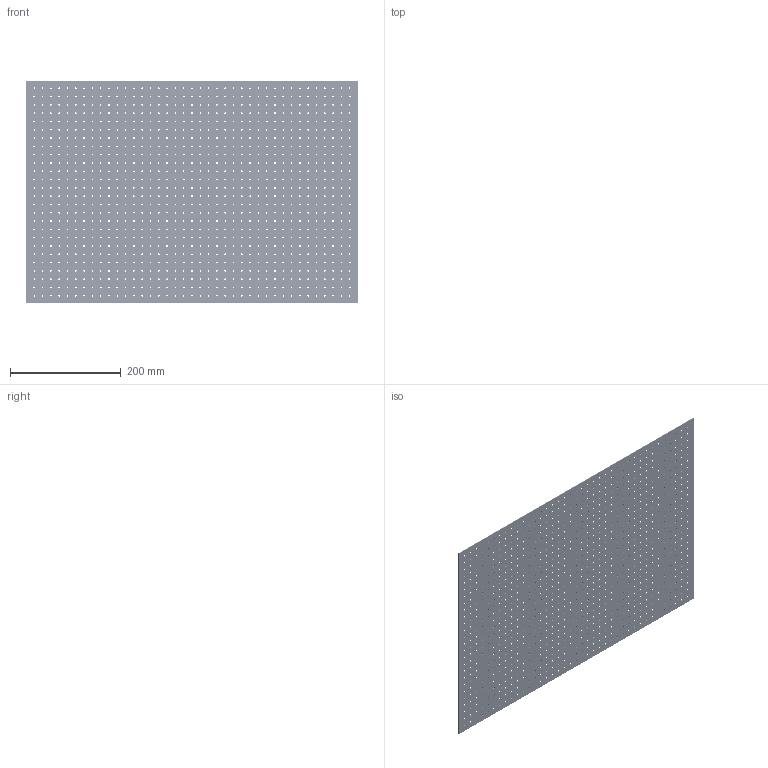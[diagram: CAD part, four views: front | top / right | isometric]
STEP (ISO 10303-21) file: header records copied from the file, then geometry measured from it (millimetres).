
FILE_DESCRIPTION (( 'STEP AP203' ), '1' );
FILE_NAME ('VT00443.STEP', '2016-07-05T05:37:19', ( '' ), ( '' ), 'SwSTEP 2.0', 'SolidWorks 2016', '' );
FILE_SCHEMA (( 'CONFIG_CONTROL_DESIGN' ));
Products named in the file (1): VT00443
Bounding box: 600 x 1 x 400 mm (x, y, z)
Volume: 232832.5 mm3; surface area: 477221.6 mm2
Topology: 1 solids, 1 shells, 2034 faces, 6096 edges, 4064 vertices
Faces by surface type: cylinder 2028, plane 6
Entity records: 75269 total; most frequent: DIRECTION 14222, CARTESIAN_POINT 12195, ORIENTED_EDGE 12192, EDGE_CURVE 6096, AXIS2_PLACEMENT_3D 6091, VERTEX_POINT 4064, EDGE_LOOP 4062, CIRCLE 4056
